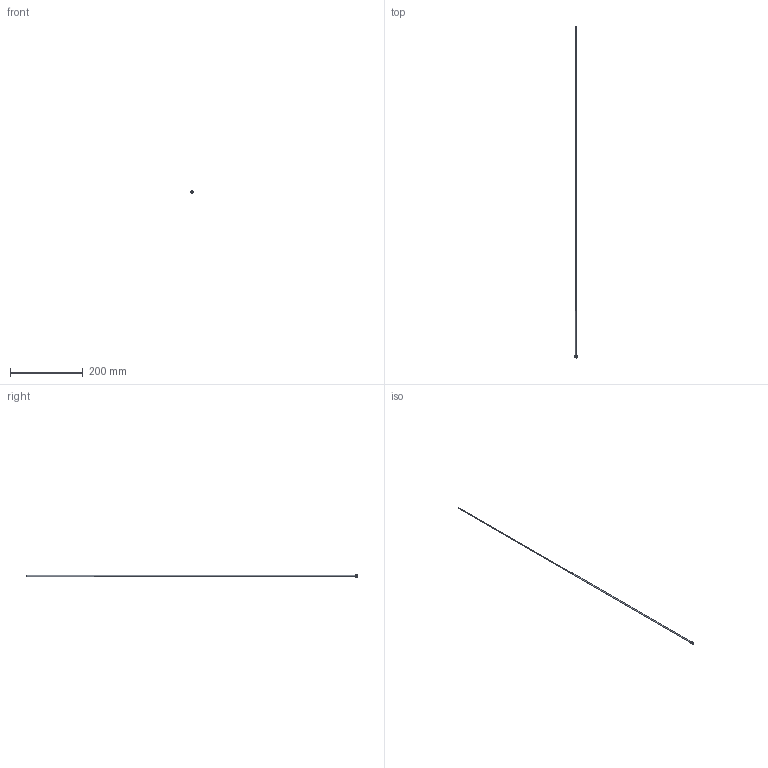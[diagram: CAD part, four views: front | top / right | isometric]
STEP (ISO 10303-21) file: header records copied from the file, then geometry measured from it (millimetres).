
FILE_DESCRIPTION(/* description */ (''),/* implementation_level */ '2;1');
FILE_NAME(/* name */ 'C:/Users/drich/Desktop/PT16-109-36 v2.step',/* time_stamp */ '2019-12-27T15:17:34-06:00',/* author */ (''),/* organization */ (''),/* preprocessor_version */ 'ST-DEVELOPER v18',/* originating_system */ 'Autodesk Translation Framework v8.12.0.6',/* authorisation */ '');
FILE_SCHEMA (('AUTOMOTIVE_DESIGN { 1 0 10303 214 3 1 1 }'));
Length unit declared in the file: inch
Products named in the file (1): PT16-109-36
Bounding box: 7.62 x 914.4 x 7.62 mm (x, y, z)
Volume: 1539 mm3; surface area: 15072.1 mm2
Topology: 1 solids, 1 shells, 19 faces, 48 edges, 34 vertices
Faces by surface type: plane 11, cylinder 4, torus 2, cone 2
Full cylindrical faces by diameter (mm): 2.413 x1, 2.769 x1, 4.724 x1, 7.616 x1
Entity records: 633 total; most frequent: DIRECTION 112, CARTESIAN_POINT 102, ORIENTED_EDGE 96, EDGE_CURVE 48, AXIS2_PLACEMENT_3D 44, VERTEX_POINT 34, CIRCLE 24, EDGE_LOOP 24
